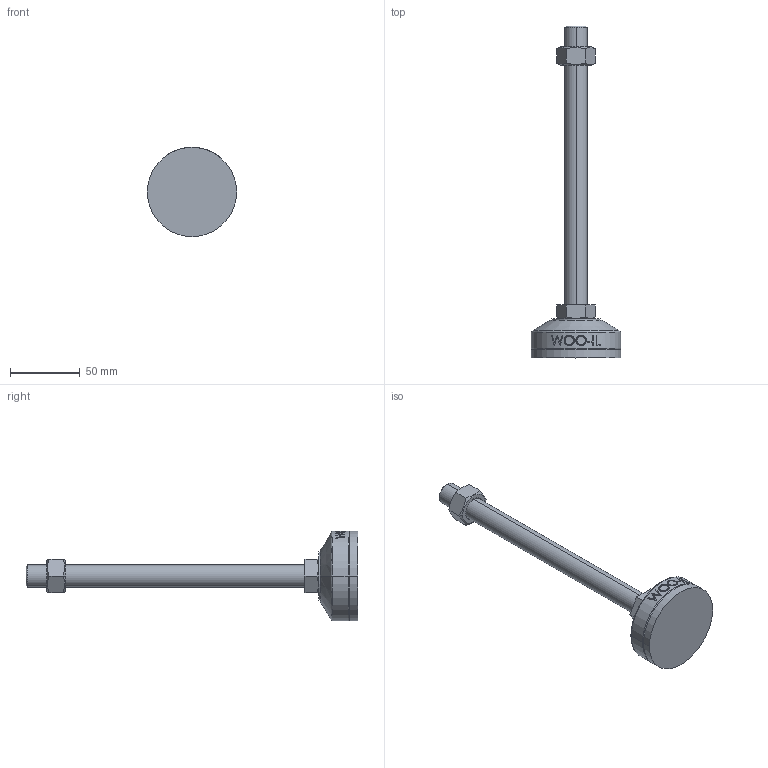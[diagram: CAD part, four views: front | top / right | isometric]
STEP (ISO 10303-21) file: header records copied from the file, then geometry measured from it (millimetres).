
FILE_DESCRIPTION (( 'STEP AP214' ), '1' );
FILE_NAME ('MFZR64-M16-200.step', '2021-03-29T06:56:07', ( '' ), ( '' ), 'SwSTEP 2.0', 'SolidWorks 2019', '' );
FILE_SCHEMA (( 'AUTOMOTIVE_DESIGN' ));
Length unit declared in the file: millimetre
Products named in the file (2): MFZR64-M16-200
Bounding box: 64 x 238 x 64 mm (x, y, z)
Volume: 127336.4 mm3; surface area: 31083.3 mm2
Topology: 4 solids, 4 shells, 103 faces, 235 edges, 150 vertices
Faces by surface type: plane 49, cylinder 18, bspline 16, cone 14, torus 6
Entity records: 4435 total; most frequent: CARTESIAN_POINT 2162, ORIENTED_EDGE 470, DIRECTION 417, EDGE_CURVE 235, AXIS2_PLACEMENT_3D 159, VERTEX_POINT 150, EDGE_LOOP 115, ADVANCED_FACE 103
